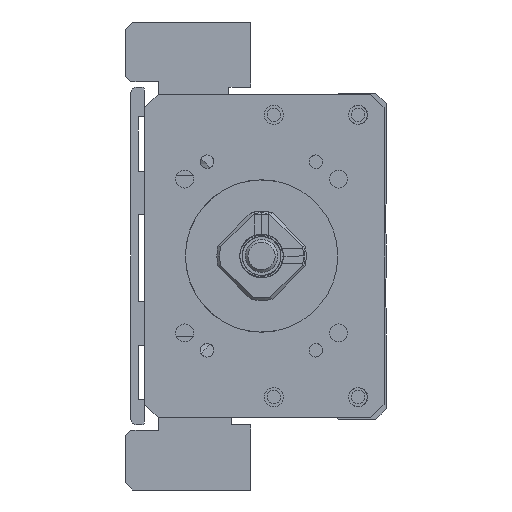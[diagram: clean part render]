
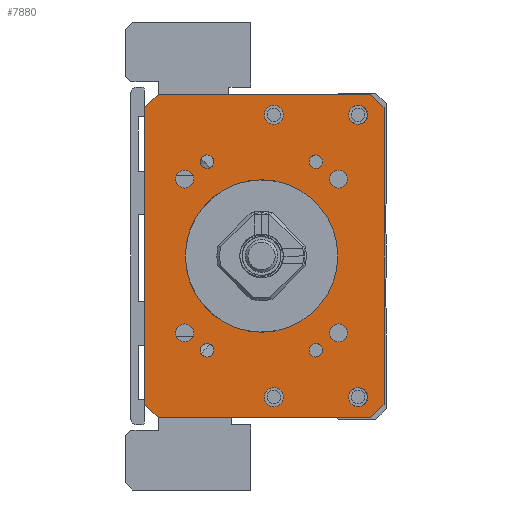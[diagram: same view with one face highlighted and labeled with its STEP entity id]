
A CAD part, left-side view. The second image highlights one B-rep face of the part: STEP entity #7880.
In plain terms, the highlighted planar face has unit normal (-1, 0, 0).
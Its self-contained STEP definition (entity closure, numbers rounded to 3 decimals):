
#5275=LINE('',#25101,#6264);
#5277=LINE('',#25125,#6266);
#5278=LINE('',#25127,#6267);
#5279=LINE('',#25129,#6268);
#5280=LINE('',#25131,#6269);
#5281=LINE('',#25133,#6270);
#5282=LINE('',#25135,#6271);
#5283=LINE('',#25137,#6272);
#6264=VECTOR('',#20650,1.);
#6266=VECTOR('',#20674,1.);
#6267=VECTOR('',#20675,1.);
#6268=VECTOR('',#20676,1.);
#6269=VECTOR('',#20677,1.);
#6270=VECTOR('',#20678,1.);
#6271=VECTOR('',#20679,1.);
#6272=VECTOR('',#20680,1.);
#7171=FACE_BOUND('',#9847,.T.);
#7172=FACE_BOUND('',#9848,.T.);
#7173=FACE_BOUND('',#9849,.T.);
#7174=FACE_BOUND('',#9850,.T.);
#7175=FACE_BOUND('',#9851,.T.);
#7176=FACE_BOUND('',#9852,.T.);
#7177=FACE_BOUND('',#9853,.T.);
#7178=FACE_BOUND('',#9854,.T.);
#7179=FACE_BOUND('',#9855,.T.);
#7180=FACE_BOUND('',#9856,.T.);
#7181=FACE_BOUND('',#9857,.T.);
#7182=FACE_BOUND('',#9858,.T.);
#7183=FACE_BOUND('',#9859,.T.);
#7184=FACE_BOUND('',#9860,.T.);
#7880=ADVANCED_FACE('',(#7171,#7172,#7173,#7174,#7175,#7176,#7177,#7178,
#7179,#7180,#7181,#7182,#7183,#7184),#8450,.F.);
#8450=PLANE('',#17766);
#9847=EDGE_LOOP('',(#12483));
#9848=EDGE_LOOP('',(#12484));
#9849=EDGE_LOOP('',(#12485));
#9850=EDGE_LOOP('',(#12486));
#9851=EDGE_LOOP('',(#12487));
#9852=EDGE_LOOP('',(#12488));
#9853=EDGE_LOOP('',(#12489));
#9854=EDGE_LOOP('',(#12490));
#9855=EDGE_LOOP('',(#12491));
#9856=EDGE_LOOP('',(#12492,#12493,#12494,#12495,#12496,#12497,#12498,#12499));
#9857=EDGE_LOOP('',(#12500));
#9858=EDGE_LOOP('',(#12501));
#9859=EDGE_LOOP('',(#12502));
#9860=EDGE_LOOP('',(#12503));
#12483=ORIENTED_EDGE('',*,*,#15882,.F.);
#12484=ORIENTED_EDGE('',*,*,#15883,.F.);
#12485=ORIENTED_EDGE('',*,*,#15884,.F.);
#12486=ORIENTED_EDGE('',*,*,#15885,.F.);
#12487=ORIENTED_EDGE('',*,*,#15886,.F.);
#12488=ORIENTED_EDGE('',*,*,#15887,.T.);
#12489=ORIENTED_EDGE('',*,*,#15888,.F.);
#12490=ORIENTED_EDGE('',*,*,#15889,.F.);
#12491=ORIENTED_EDGE('',*,*,#15890,.F.);
#12492=ORIENTED_EDGE('',*,*,#15879,.T.);
#12493=ORIENTED_EDGE('',*,*,#15891,.T.);
#12494=ORIENTED_EDGE('',*,*,#15892,.F.);
#12495=ORIENTED_EDGE('',*,*,#15893,.T.);
#12496=ORIENTED_EDGE('',*,*,#15894,.F.);
#12497=ORIENTED_EDGE('',*,*,#15895,.T.);
#12498=ORIENTED_EDGE('',*,*,#15896,.T.);
#12499=ORIENTED_EDGE('',*,*,#15897,.T.);
#12500=ORIENTED_EDGE('',*,*,#15898,.F.);
#12501=ORIENTED_EDGE('',*,*,#15899,.F.);
#12502=ORIENTED_EDGE('',*,*,#15900,.F.);
#12503=ORIENTED_EDGE('',*,*,#15859,.F.);
#14345=VERTEX_POINT('',#25040);
#14365=VERTEX_POINT('',#25100);
#14366=VERTEX_POINT('',#25102);
#14368=VERTEX_POINT('',#25108);
#14369=VERTEX_POINT('',#25110);
#14370=VERTEX_POINT('',#25112);
#14371=VERTEX_POINT('',#25114);
#14372=VERTEX_POINT('',#25116);
#14373=VERTEX_POINT('',#25118);
#14374=VERTEX_POINT('',#25120);
#14375=VERTEX_POINT('',#25122);
#14376=VERTEX_POINT('',#25124);
#14377=VERTEX_POINT('',#25126);
#14378=VERTEX_POINT('',#25128);
#14379=VERTEX_POINT('',#25130);
#14380=VERTEX_POINT('',#25132);
#14381=VERTEX_POINT('',#25134);
#14382=VERTEX_POINT('',#25136);
#14383=VERTEX_POINT('',#25139);
#14384=VERTEX_POINT('',#25141);
#14385=VERTEX_POINT('',#25143);
#15859=EDGE_CURVE('',#14345,#14345,#16702,.T.);
#15879=EDGE_CURVE('',#14366,#14365,#5275,.T.);
#15882=EDGE_CURVE('',#14368,#14368,#16711,.T.);
#15883=EDGE_CURVE('',#14369,#14369,#16712,.T.);
#15884=EDGE_CURVE('',#14370,#14370,#16713,.T.);
#15885=EDGE_CURVE('',#14371,#14371,#16714,.T.);
#15886=EDGE_CURVE('',#14372,#14372,#16715,.T.);
#15887=EDGE_CURVE('',#14373,#14373,#16716,.T.);
#15888=EDGE_CURVE('',#14374,#14374,#16717,.T.);
#15889=EDGE_CURVE('',#14375,#14375,#16718,.T.);
#15890=EDGE_CURVE('',#14376,#14376,#16719,.T.);
#15891=EDGE_CURVE('',#14365,#14377,#5277,.T.);
#15892=EDGE_CURVE('',#14378,#14377,#5278,.T.);
#15893=EDGE_CURVE('',#14378,#14379,#5279,.T.);
#15894=EDGE_CURVE('',#14380,#14379,#5280,.T.);
#15895=EDGE_CURVE('',#14380,#14381,#5281,.T.);
#15896=EDGE_CURVE('',#14381,#14382,#5282,.T.);
#15897=EDGE_CURVE('',#14382,#14366,#5283,.T.);
#15898=EDGE_CURVE('',#14383,#14383,#16720,.T.);
#15899=EDGE_CURVE('',#14384,#14384,#16721,.T.);
#15900=EDGE_CURVE('',#14385,#14385,#16722,.T.);
#16702=CIRCLE('',#17743,14.);
#16711=CIRCLE('',#17754,1.65);
#16712=CIRCLE('',#17755,1.65);
#16713=CIRCLE('',#17756,1.65);
#16714=CIRCLE('',#17757,1.65);
#16715=CIRCLE('',#17758,1.25);
#16716=CIRCLE('',#17759,1.75);
#16717=CIRCLE('',#17760,1.25);
#16718=CIRCLE('',#17761,1.75);
#16719=CIRCLE('',#17762,1.25);
#16720=CIRCLE('',#17763,1.75);
#16721=CIRCLE('',#17764,1.75);
#16722=CIRCLE('',#17765,1.25);
#17743=AXIS2_PLACEMENT_3D('',#25039,#20624,#20625);
#17754=AXIS2_PLACEMENT_3D('',#25107,#20656,#20657);
#17755=AXIS2_PLACEMENT_3D('',#25109,#20658,#20659);
#17756=AXIS2_PLACEMENT_3D('',#25111,#20660,#20661);
#17757=AXIS2_PLACEMENT_3D('',#25113,#20662,#20663);
#17758=AXIS2_PLACEMENT_3D('',#25115,#20664,#20665);
#17759=AXIS2_PLACEMENT_3D('',#25117,#20666,#20667);
#17760=AXIS2_PLACEMENT_3D('',#25119,#20668,#20669);
#17761=AXIS2_PLACEMENT_3D('',#25121,#20670,#20671);
#17762=AXIS2_PLACEMENT_3D('',#25123,#20672,#20673);
#17763=AXIS2_PLACEMENT_3D('',#25138,#20681,#20682);
#17764=AXIS2_PLACEMENT_3D('',#25140,#20683,#20684);
#17765=AXIS2_PLACEMENT_3D('',#25142,#20685,#20686);
#17766=AXIS2_PLACEMENT_3D('',#25144,#20687,#20688);
#20624=DIRECTION('',(-1.,0.,0.));
#20625=DIRECTION('',(0.,1.,0.));
#20650=DIRECTION('',(0.,0.,-1.));
#20656=DIRECTION('',(-1.,0.,0.));
#20657=DIRECTION('',(0.,0.,1.));
#20658=DIRECTION('',(-1.,0.,0.));
#20659=DIRECTION('',(0.,0.,1.));
#20660=DIRECTION('',(-1.,0.,0.));
#20661=DIRECTION('',(0.,0.,1.));
#20662=DIRECTION('',(-1.,0.,0.));
#20663=DIRECTION('',(0.,0.,1.));
#20664=DIRECTION('',(-1.,0.,0.));
#20665=DIRECTION('',(0.,1.,0.));
#20666=DIRECTION('',(1.,0.,0.));
#20667=DIRECTION('',(0.,0.,1.));
#20668=DIRECTION('',(-1.,0.,0.));
#20669=DIRECTION('',(0.,1.,0.));
#20670=DIRECTION('',(-1.,0.,0.));
#20671=DIRECTION('',(0.,0.,1.));
#20672=DIRECTION('',(-1.,0.,0.));
#20673=DIRECTION('',(0.,1.,0.));
#20674=DIRECTION('',(0.,-0.707,-0.707));
#20675=DIRECTION('',(0.,1.,0.));
#20676=DIRECTION('',(0.,-0.707,0.707));
#20677=DIRECTION('',(0.,0.,-1.));
#20678=DIRECTION('',(0.,0.707,0.707));
#20679=DIRECTION('',(0.,1.,0.));
#20680=DIRECTION('',(0.,0.707,-0.707));
#20681=DIRECTION('',(-1.,0.,0.));
#20682=DIRECTION('',(0.,0.,1.));
#20683=DIRECTION('',(-1.,0.,0.));
#20684=DIRECTION('',(0.,0.,1.));
#20685=DIRECTION('',(-1.,0.,0.));
#20686=DIRECTION('',(0.,1.,0.));
#20687=DIRECTION('',(1.,0.,0.));
#20688=DIRECTION('',(0.,1.,0.));
#25039=CARTESIAN_POINT('',(-211.,0.,0.));
#25040=CARTESIAN_POINT('',(-211.,14.,0.));
#25100=CARTESIAN_POINT('',(-211.,21.499,-27.25));
#25101=CARTESIAN_POINT('',(-211.,21.499,29.75));
#25102=CARTESIAN_POINT('',(-211.,21.499,27.25));
#25107=CARTESIAN_POINT('',(-211.,14.142,14.142));
#25108=CARTESIAN_POINT('',(-211.,14.142,15.792));
#25109=CARTESIAN_POINT('',(-211.,-14.142,14.142));
#25110=CARTESIAN_POINT('',(-211.,-14.142,15.792));
#25111=CARTESIAN_POINT('',(-211.,14.142,-14.142));
#25112=CARTESIAN_POINT('',(-211.,14.142,-12.492));
#25113=CARTESIAN_POINT('',(-211.,-14.142,-14.142));
#25114=CARTESIAN_POINT('',(-211.,-14.142,-12.492));
#25115=CARTESIAN_POINT('',(-211.,-10.,-17.321));
#25116=CARTESIAN_POINT('',(-211.,-8.75,-17.321));
#25117=CARTESIAN_POINT('',(-211.,-2.25,-25.936));
#25118=CARTESIAN_POINT('',(-211.,-2.25,-24.186));
#25119=CARTESIAN_POINT('',(-211.,10.,17.321));
#25120=CARTESIAN_POINT('',(-211.,11.25,17.321));
#25121=CARTESIAN_POINT('',(-211.,-2.25,25.936));
#25122=CARTESIAN_POINT('',(-211.,-2.25,27.686));
#25123=CARTESIAN_POINT('',(-211.,10.,-17.321));
#25124=CARTESIAN_POINT('',(-211.,11.25,-17.321));
#25125=CARTESIAN_POINT('',(-211.,18.999,-29.75));
#25126=CARTESIAN_POINT('',(-211.,18.999,-29.75));
#25127=CARTESIAN_POINT('',(-211.,-22.501,-29.75));
#25128=CARTESIAN_POINT('',(-211.,-20.001,-29.75));
#25129=CARTESIAN_POINT('',(-211.,-22.501,-27.25));
#25130=CARTESIAN_POINT('',(-211.,-22.501,-27.25));
#25131=CARTESIAN_POINT('',(-211.,-22.501,29.75));
#25132=CARTESIAN_POINT('',(-211.,-22.501,27.25));
#25133=CARTESIAN_POINT('',(-211.,-22.501,27.25));
#25134=CARTESIAN_POINT('',(-211.,-20.001,29.75));
#25135=CARTESIAN_POINT('',(-211.,-22.501,29.75));
#25136=CARTESIAN_POINT('',(-211.,18.999,29.75));
#25137=CARTESIAN_POINT('',(-211.,18.999,29.75));
#25138=CARTESIAN_POINT('',(-211.,-17.75,25.936));
#25139=CARTESIAN_POINT('',(-211.,-17.75,27.686));
#25140=CARTESIAN_POINT('',(-211.,-17.75,-25.936));
#25141=CARTESIAN_POINT('',(-211.,-17.75,-24.186));
#25142=CARTESIAN_POINT('',(-211.,-10.,17.321));
#25143=CARTESIAN_POINT('',(-211.,-8.75,17.321));
#25144=CARTESIAN_POINT('',(-211.,-22.501,29.75));
